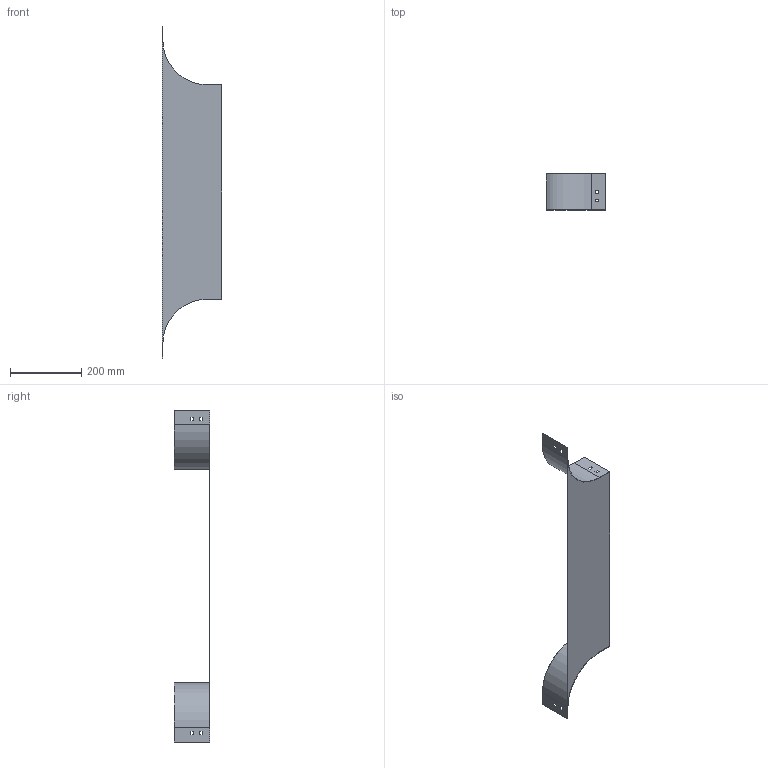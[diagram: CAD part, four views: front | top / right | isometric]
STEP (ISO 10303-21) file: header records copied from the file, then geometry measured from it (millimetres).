
FILE_DESCRIPTION (( 'STEP AP214' ), '1' );
FILE_NAME ('RL_601.step', '2025-07-16T09:25:52', ( '' ), ( '' ), 'SwSTEP 2.0', 'SolidWorks 2023', '' );
FILE_SCHEMA (( 'AUTOMOTIVE_DESIGN' ));
Length unit declared in the file: millimetre
Products named in the file (1): RL_601
Bounding box: 166.5 x 100 x 930 mm (x, y, z)
Volume: 241821.4 mm3; surface area: 326556.1 mm2
Topology: 1 solids, 1 shells, 50 faces, 144 edges, 96 vertices
Faces by surface type: plane 46, cylinder 4
Entity records: 1671 total; most frequent: CARTESIAN_POINT 291, ORIENTED_EDGE 288, DIRECTION 254, EDGE_CURVE 144, LINE 136, VECTOR 136, VERTEX_POINT 96, EDGE_LOOP 66
